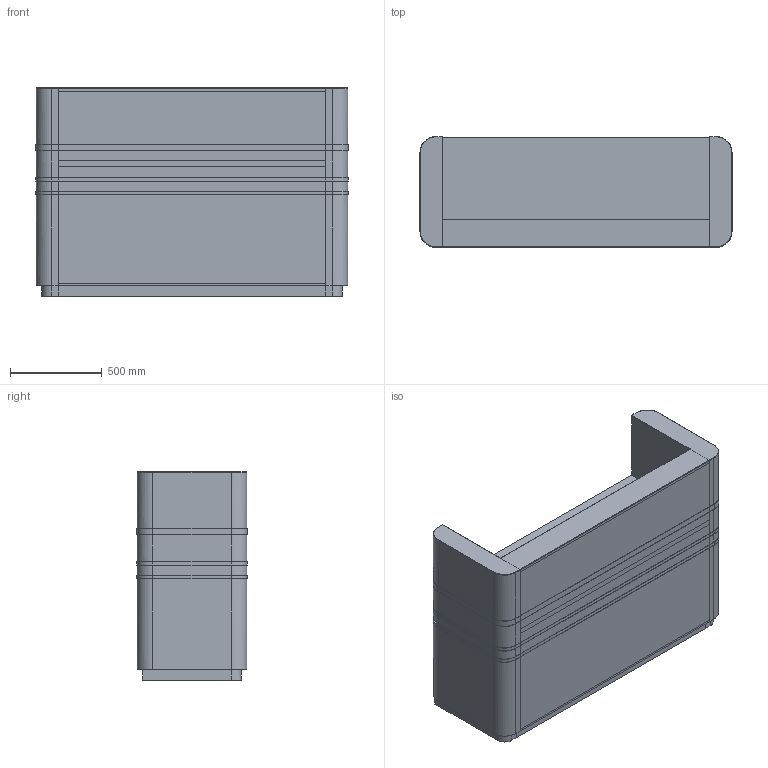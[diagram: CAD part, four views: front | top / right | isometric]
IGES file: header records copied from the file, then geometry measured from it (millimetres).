
Start section: Comment
Global section: file name: Basistheke - 170 x 60 - ZL.igs; native system:  By UGS Corp.; preprocessor: XPlus GENERIC/IGES 3.0; author: Author; organization: Title; date: 20181120.104249; units: inch
Bounding box: 1703 x 603 x 1140.01 mm (x, y, z)
Surface area: 9854048.3 mm2 (no closed solid volume)
Topology: 0 solids, 0 shells, 136 faces, 796 edges, 796 vertices
Faces by surface type: bspline 136
